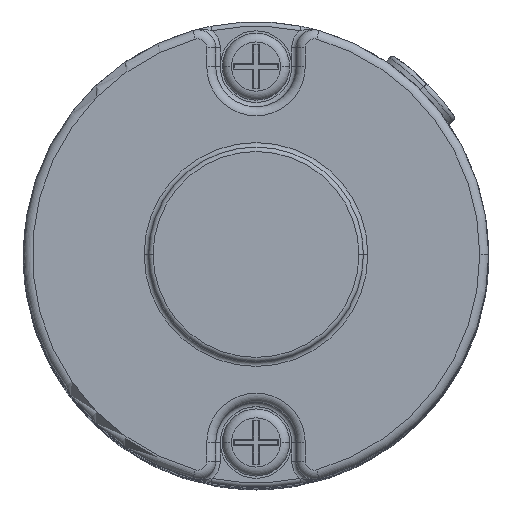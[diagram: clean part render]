
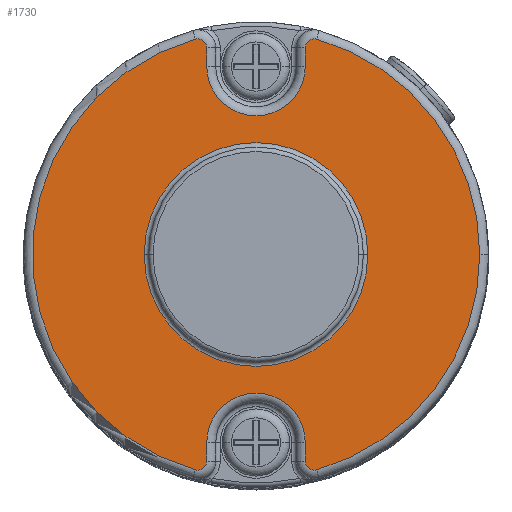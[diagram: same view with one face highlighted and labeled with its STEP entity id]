
A CAD part, top view. The second image highlights one B-rep face of the part: STEP entity #1730.
In plain terms, the highlighted planar face has unit normal (0, 0, 1).
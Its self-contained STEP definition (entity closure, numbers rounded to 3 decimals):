
#89 = CARTESIAN_POINT ( 'NONE',  ( -6.771, -24.066, 13. ) ) ;
#123 = ORIENTED_EDGE ( 'NONE', *, *, #704, .T. ) ;
#131 = DIRECTION ( 'NONE',  ( 0., -1., 0. ) ) ;
#174 = AXIS2_PLACEMENT_3D ( 'NONE', #2479, #1511, #7441 ) ;
#197 = CARTESIAN_POINT ( 'NONE',  ( 0., -21., 13. ) ) ;
#303 = CIRCLE ( 'NONE', #5756, 5.5 ) ;
#463 = CARTESIAN_POINT ( 'NONE',  ( -6.5, 23.103, 13. ) ) ;
#641 = ORIENTED_EDGE ( 'NONE', *, *, #1631, .T. ) ;
#666 = DIRECTION ( 'NONE',  ( 1., 0., 0. ) ) ;
#704 = EDGE_CURVE ( 'NONE', #8705, #6171, #1986, .T. ) ;
#747 = CARTESIAN_POINT ( 'NONE',  ( 5.5, -21., 13. ) ) ;
#757 = CARTESIAN_POINT ( 'NONE',  ( 6.771, -24.066, 13. ) ) ;
#815 = CARTESIAN_POINT ( 'NONE',  ( -6.5, -23.103, 13. ) ) ;
#911 = VERTEX_POINT ( 'NONE', #747 ) ;
#989 = CARTESIAN_POINT ( 'NONE',  ( -6.771, 24.066, 13. ) ) ;
#1020 = VERTEX_POINT ( 'NONE', #3097 ) ;
#1190 = EDGE_CURVE ( 'NONE', #7026, #1443, #6811, .T. ) ;
#1267 = LINE ( 'NONE', #6581, #6845 ) ;
#1297 = EDGE_LOOP ( 'NONE', ( #2985, #9208 ) ) ;
#1367 = CARTESIAN_POINT ( 'NONE',  ( 5.5, 21., 13. ) ) ;
#1392 = VERTEX_POINT ( 'NONE', #7338 ) ;
#1443 = VERTEX_POINT ( 'NONE', #2921 ) ;
#1511 = DIRECTION ( 'NONE',  ( 0., 0., -1. ) ) ;
#1533 = AXIS2_PLACEMENT_3D ( 'NONE', #7476, #6032, #666 ) ;
#1568 = CARTESIAN_POINT ( 'NONE',  ( 6.771, 24.066, 13. ) ) ;
#1631 = EDGE_CURVE ( 'NONE', #5836, #8705, #8360, .T. ) ;
#1730 = ADVANCED_FACE ( 'NONE', ( #8161, #6660 ), #3841, .T. ) ;
#1844 = DIRECTION ( 'NONE',  ( 0., 0., -1. ) ) ;
#1934 = CIRCLE ( 'NONE', #9354, 1. ) ;
#1986 = CIRCLE ( 'NONE', #6188, 1. ) ;
#1992 = CARTESIAN_POINT ( 'NONE',  ( -5.5, 21., 13. ) ) ;
#2010 = ORIENTED_EDGE ( 'NONE', *, *, #7036, .T. ) ;
#2064 = AXIS2_PLACEMENT_3D ( 'NONE', #2851, #5726, #7275 ) ;
#2124 = CARTESIAN_POINT ( 'NONE',  ( 5.5, -23.103, 13. ) ) ;
#2316 = VERTEX_POINT ( 'NONE', #7906 ) ;
#2449 = EDGE_CURVE ( 'NONE', #7233, #8169, #2590, .T. ) ;
#2479 = CARTESIAN_POINT ( 'NONE',  ( 0., 0., 13. ) ) ;
#2569 = DIRECTION ( 'NONE',  ( 0., 1., 0. ) ) ;
#2590 = LINE ( 'NONE', #7121, #5961 ) ;
#2650 = DIRECTION ( 'NONE',  ( 1., 0., 0. ) ) ;
#2655 = DIRECTION ( 'NONE',  ( 1., 0., 0. ) ) ;
#2841 = DIRECTION ( 'NONE',  ( 0., 0., 1. ) ) ;
#2851 = CARTESIAN_POINT ( 'NONE',  ( 6.5, 23.103, 13. ) ) ;
#2921 = CARTESIAN_POINT ( 'NONE',  ( 25., 0., 13. ) ) ;
#2985 = ORIENTED_EDGE ( 'NONE', *, *, #5876, .T. ) ;
#3033 = CARTESIAN_POINT ( 'NONE',  ( 6.5, -23.103, 13. ) ) ;
#3097 = CARTESIAN_POINT ( 'NONE',  ( 5.5, -23.103, 13. ) ) ;
#3120 = AXIS2_PLACEMENT_3D ( 'NONE', #197, #1844, #8446 ) ;
#3212 = VERTEX_POINT ( 'NONE', #8910 ) ;
#3239 = AXIS2_PLACEMENT_3D ( 'NONE', #5127, #7455, #3628 ) ;
#3287 = CIRCLE ( 'NONE', #174, 12.5 ) ;
#3389 = CARTESIAN_POINT ( 'NONE',  ( 0., 0., 13. ) ) ;
#3462 = AXIS2_PLACEMENT_3D ( 'NONE', #3389, #6349, #4948 ) ;
#3560 = DIRECTION ( 'NONE',  ( 0., 0., -1. ) ) ;
#3574 = EDGE_LOOP ( 'NONE', ( #6907, #6689, #7155, #8873, #5712, #9196, #5092, #641, #123, #4604, #2010, #7294, #6593 ) ) ;
#3589 = LINE ( 'NONE', #2124, #4086 ) ;
#3628 = DIRECTION ( 'NONE',  ( 1., 0., 0. ) ) ;
#3668 = DIRECTION ( 'NONE',  ( 0., 1., 0. ) ) ;
#3812 = CIRCLE ( 'NONE', #6442, 25. ) ;
#3841 = PLANE ( 'NONE',  #1533 ) ;
#4086 = VECTOR ( 'NONE', #8672, 1000. ) ;
#4123 = DIRECTION ( 'NONE',  ( 0., 0., -1. ) ) ;
#4352 = CARTESIAN_POINT ( 'NONE',  ( 0., 0., 13. ) ) ;
#4364 = CARTESIAN_POINT ( 'NONE',  ( 5.5, 23.103, 13. ) ) ;
#4516 = DIRECTION ( 'NONE',  ( 1., 0., 0. ) ) ;
#4520 = CIRCLE ( 'NONE', #3120, 5.5 ) ;
#4562 = EDGE_CURVE ( 'NONE', #1020, #7026, #1934, .T. ) ;
#4604 = ORIENTED_EDGE ( 'NONE', *, *, #7216, .T. ) ;
#4948 = DIRECTION ( 'NONE',  ( 1., 0., 0. ) ) ;
#5092 = ORIENTED_EDGE ( 'NONE', *, *, #5138, .T. ) ;
#5127 = CARTESIAN_POINT ( 'NONE',  ( 0., 0., 13. ) ) ;
#5138 = EDGE_CURVE ( 'NONE', #8169, #5836, #303, .T. ) ;
#5165 = CIRCLE ( 'NONE', #2064, 1. ) ;
#5383 = EDGE_CURVE ( 'NONE', #6738, #3212, #1267, .T. ) ;
#5455 = CIRCLE ( 'NONE', #7925, 12.5 ) ;
#5656 = EDGE_CURVE ( 'NONE', #3212, #911, #4520, .T. ) ;
#5712 = ORIENTED_EDGE ( 'NONE', *, *, #7217, .T. ) ;
#5726 = DIRECTION ( 'NONE',  ( 0., 0., 1. ) ) ;
#5756 = AXIS2_PLACEMENT_3D ( 'NONE', #9288, #4123, #2650 ) ;
#5836 = VERTEX_POINT ( 'NONE', #1992 ) ;
#5876 = EDGE_CURVE ( 'NONE', #2316, #1392, #5455, .T. ) ;
#5961 = VECTOR ( 'NONE', #131, 1000. ) ;
#6032 = DIRECTION ( 'NONE',  ( 0., 0., 1. ) ) ;
#6161 = VERTEX_POINT ( 'NONE', #1568 ) ;
#6171 = VERTEX_POINT ( 'NONE', #989 ) ;
#6188 = AXIS2_PLACEMENT_3D ( 'NONE', #463, #9431, #2655 ) ;
#6349 = DIRECTION ( 'NONE',  ( 0., 0., 1. ) ) ;
#6442 = AXIS2_PLACEMENT_3D ( 'NONE', #4352, #2841, #6585 ) ;
#6556 = AXIS2_PLACEMENT_3D ( 'NONE', #815, #6707, #4516 ) ;
#6581 = CARTESIAN_POINT ( 'NONE',  ( -5.5, -21., 13. ) ) ;
#6585 = DIRECTION ( 'NONE',  ( 1., 0., 0. ) ) ;
#6593 = ORIENTED_EDGE ( 'NONE', *, *, #5656, .T. ) ;
#6660 = FACE_OUTER_BOUND ( 'NONE', #3574, .T. ) ;
#6669 = EDGE_CURVE ( 'NONE', #1392, #2316, #3287, .T. ) ;
#6671 = CARTESIAN_POINT ( 'NONE',  ( -5.5, 23.103, 13. ) ) ;
#6689 = ORIENTED_EDGE ( 'NONE', *, *, #4562, .T. ) ;
#6707 = DIRECTION ( 'NONE',  ( 0., 0., 1. ) ) ;
#6738 = VERTEX_POINT ( 'NONE', #6998 ) ;
#6811 = CIRCLE ( 'NONE', #3239, 25. ) ;
#6845 = VECTOR ( 'NONE', #3668, 1000. ) ;
#6907 = ORIENTED_EDGE ( 'NONE', *, *, #7283, .T. ) ;
#6998 = CARTESIAN_POINT ( 'NONE',  ( -5.5, -23.103, 13. ) ) ;
#7026 = VERTEX_POINT ( 'NONE', #757 ) ;
#7036 = EDGE_CURVE ( 'NONE', #7055, #6738, #7638, .T. ) ;
#7055 = VERTEX_POINT ( 'NONE', #89 ) ;
#7101 = CARTESIAN_POINT ( 'NONE',  ( 0., 0., 13. ) ) ;
#7121 = CARTESIAN_POINT ( 'NONE',  ( 5.5, 21., 13. ) ) ;
#7155 = ORIENTED_EDGE ( 'NONE', *, *, #1190, .T. ) ;
#7216 = EDGE_CURVE ( 'NONE', #6171, #7055, #7330, .T. ) ;
#7217 = EDGE_CURVE ( 'NONE', #6161, #7233, #5165, .T. ) ;
#7233 = VERTEX_POINT ( 'NONE', #4364 ) ;
#7275 = DIRECTION ( 'NONE',  ( 1., 0., 0. ) ) ;
#7283 = EDGE_CURVE ( 'NONE', #911, #1020, #3589, .T. ) ;
#7294 = ORIENTED_EDGE ( 'NONE', *, *, #5383, .T. ) ;
#7330 = CIRCLE ( 'NONE', #3462, 25. ) ;
#7338 = CARTESIAN_POINT ( 'NONE',  ( -12.5, 0., 13. ) ) ;
#7441 = DIRECTION ( 'NONE',  ( 1., 0., 0. ) ) ;
#7455 = DIRECTION ( 'NONE',  ( 0., 0., 1. ) ) ;
#7476 = CARTESIAN_POINT ( 'NONE',  ( 0., 0., 13. ) ) ;
#7638 = CIRCLE ( 'NONE', #6556, 1. ) ;
#7906 = CARTESIAN_POINT ( 'NONE',  ( 12.5, 0., 13. ) ) ;
#7925 = AXIS2_PLACEMENT_3D ( 'NONE', #7101, #3560, #8642 ) ;
#8161 = FACE_BOUND ( 'NONE', #1297, .T. ) ;
#8169 = VERTEX_POINT ( 'NONE', #1367 ) ;
#8360 = LINE ( 'NONE', #9214, #9413 ) ;
#8446 = DIRECTION ( 'NONE',  ( 1., 0., 0. ) ) ;
#8642 = DIRECTION ( 'NONE',  ( 1., 0., 0. ) ) ;
#8672 = DIRECTION ( 'NONE',  ( 0., -1., 0. ) ) ;
#8705 = VERTEX_POINT ( 'NONE', #6671 ) ;
#8851 = DIRECTION ( 'NONE',  ( 0., 0., 1. ) ) ;
#8873 = ORIENTED_EDGE ( 'NONE', *, *, #9200, .T. ) ;
#8901 = DIRECTION ( 'NONE',  ( 1., 0., 0. ) ) ;
#8910 = CARTESIAN_POINT ( 'NONE',  ( -5.5, -21., 13. ) ) ;
#9196 = ORIENTED_EDGE ( 'NONE', *, *, #2449, .T. ) ;
#9200 = EDGE_CURVE ( 'NONE', #1443, #6161, #3812, .T. ) ;
#9208 = ORIENTED_EDGE ( 'NONE', *, *, #6669, .T. ) ;
#9214 = CARTESIAN_POINT ( 'NONE',  ( -5.5, 23.103, 13. ) ) ;
#9288 = CARTESIAN_POINT ( 'NONE',  ( 0., 21., 13. ) ) ;
#9354 = AXIS2_PLACEMENT_3D ( 'NONE', #3033, #8851, #8901 ) ;
#9413 = VECTOR ( 'NONE', #2569, 1000. ) ;
#9431 = DIRECTION ( 'NONE',  ( 0., 0., 1. ) ) ;
